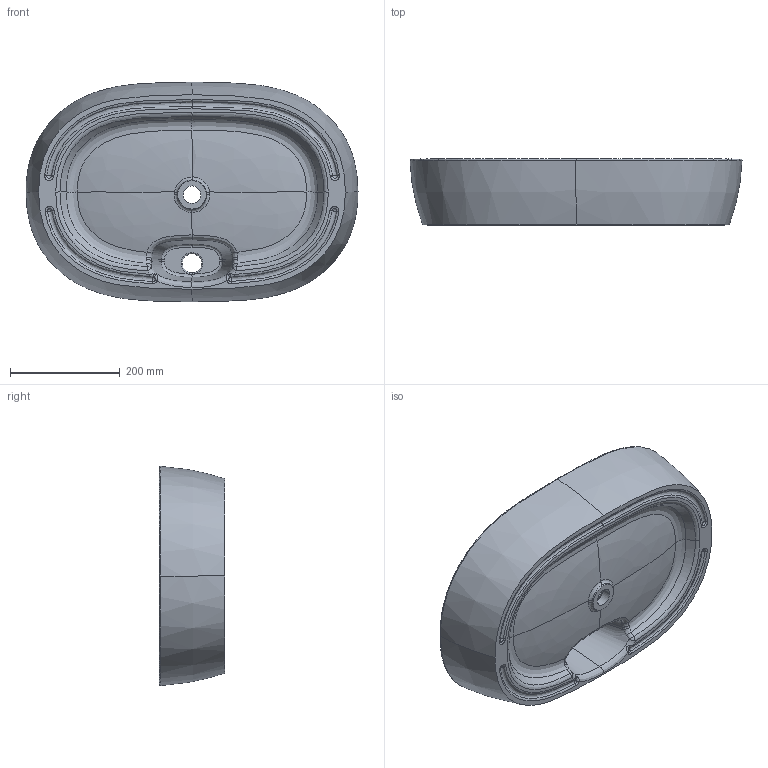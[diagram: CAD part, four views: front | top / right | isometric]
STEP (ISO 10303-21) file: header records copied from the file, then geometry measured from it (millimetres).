
FILE_DESCRIPTION((''),'2;1');
FILE_NAME('2203-TP','2022-12-25T',('Administrator'),(''),'PRO/ENGINEER BY PARAMETRIC TECHNOLOGY CORPORATION, 2015240','PRO/ENGINEER BY PARAMETRIC TECHNOLOGY CORPORATION, 2015240','');
FILE_SCHEMA(('CONFIG_CONTROL_DESIGN'));
Length unit declared in the file: millimetre
Products named in the file (1): 2203-TP
Bounding box: 604.86 x 120 x 399.7 mm (x, y, z)
Volume: 9882641.1 mm3; surface area: 675168.2 mm2
Topology: 1 solids, 1 shells, 125 faces, 287 edges, 164 vertices
Faces by surface type: bspline 104, plane 5, cylinder 5, torus 5, cone 4, sphere 2
Entity records: 13530 total; most frequent: CARTESIAN_POINT 11350, ORIENTED_EDGE 574, EDGE_CURVE 287, DIRECTION 251, B_SPLINE_CURVE_WITH_KNOTS 173, VERTEX_POINT 164, EDGE_LOOP 129, FACE_OUTER_BOUND 125
